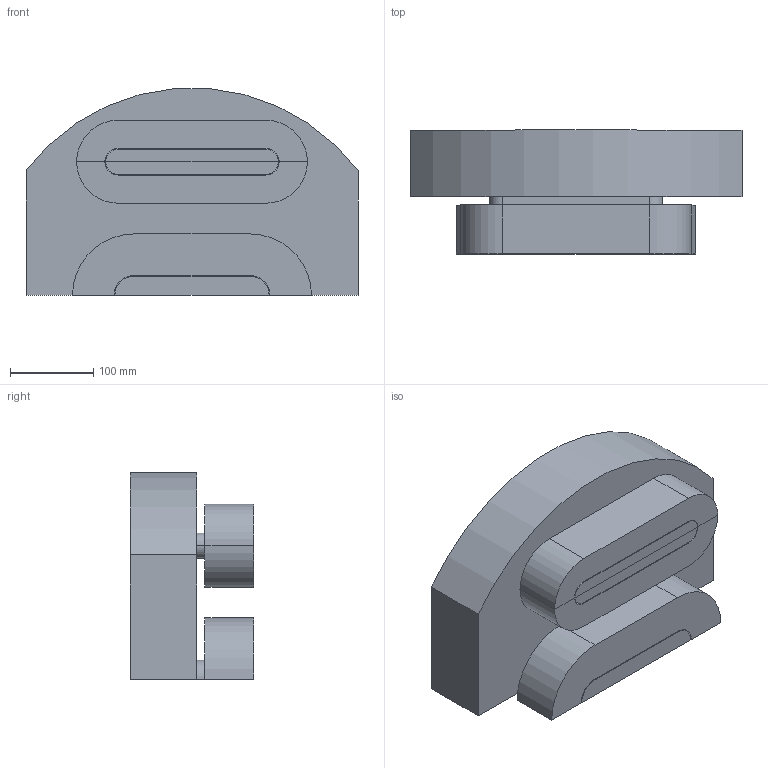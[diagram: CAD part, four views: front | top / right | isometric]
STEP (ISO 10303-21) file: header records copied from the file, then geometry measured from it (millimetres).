
FILE_DESCRIPTION(('STEP AP214'),'1');
FILE_NAME('SWLS_Sirius_Model1_step.step','2021-09-09T13:10:01',(' '),(' '),'Spatial InterOp 3D',' ',' ');
FILE_SCHEMA(('AUTOMOTIVE_DESIGN { 1 0 10303 214 1 1 1 1 }'));
Length unit declared in the file: millimetre
Products named in the file (1): Pole
Bounding box: 400 x 149 x 249.11 mm (x, y, z)
Volume: 9730412.5 mm3; surface area: 559234.8 mm2
Topology: 7 solids, 7 shells, 54 faces, 120 edges, 80 vertices
Faces by surface type: plane 35, cylinder 19
Entity records: 1541 total; most frequent: DIRECTION 280, CARTESIAN_POINT 261, ORIENTED_EDGE 240, EDGE_CURVE 120, AXIS2_PLACEMENT_3D 99, LINE 82, VECTOR 82, VERTEX_POINT 80
